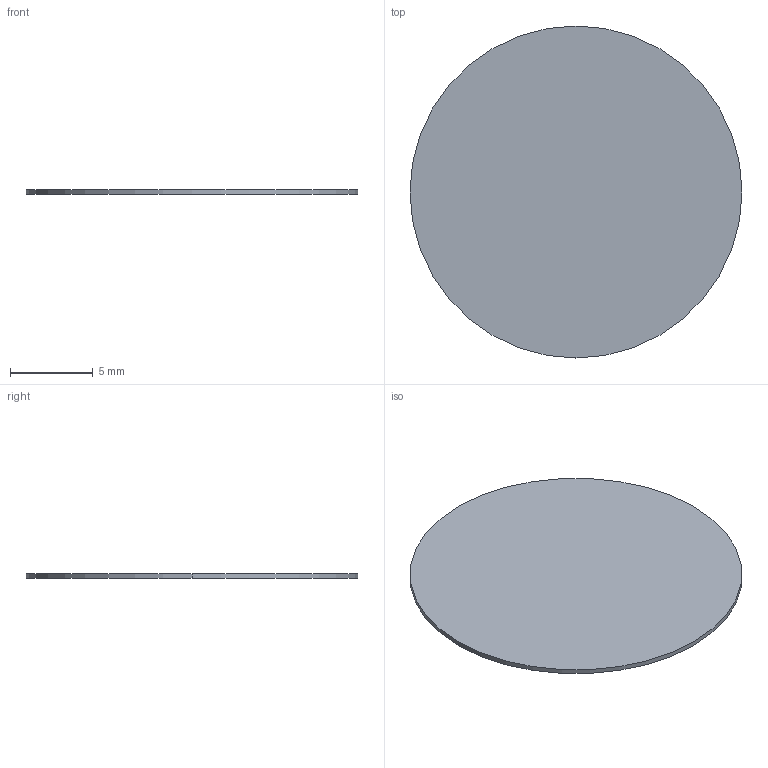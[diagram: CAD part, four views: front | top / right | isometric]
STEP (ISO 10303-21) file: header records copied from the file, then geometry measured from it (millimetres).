
FILE_DESCRIPTION(/* description */ ('PCB Design'),/* implementation_level */ '2;1');
FILE_NAME(/* name */ 'Test_Board_Cross_section',/* time_stamp */ '2020-04-24T11:10:23+06:00',/* author */ ('GKM5KOR'),/* organization */ (''),/* preprocessor_version */ 'ST-DEVELOPER v16',/* originating_system */ 'allegro_17.2S063',/* authorisation */ '');
FILE_SCHEMA (('AUTOMOTIVE_DESIGN { 1 0 10303 214 3 1 1 }'));
Length unit declared in the file: millimetre
Products named in the file (2): TEST_BOARD_CROSS_SECTION; BOARD_OUTLINE
Assembly tree (1 placements, depth 2):
  TEST_BOARD_CROSS_SECTION
    BOARD_OUTLINE
Bounding box: 20 x 20 x 0.28 mm (x, y, z)
Surface area: 645.8 mm2 (no closed solid volume)
Topology: 0 solids, 1 shells, 4 faces, 7 edges, 4 vertices
Faces by surface type: plane 2, cylinder 2
Entity records: 125 total; most frequent: CARTESIAN_POINT 13, ORIENTED_EDGE 12, AXIS2_PLACEMENT_3D 10, EDGE_CURVE 7, VERTEX_POINT 6, DIRECTION 6, FILL_AREA_STYLE_COLOUR 4, FILL_AREA_STYLE 4
